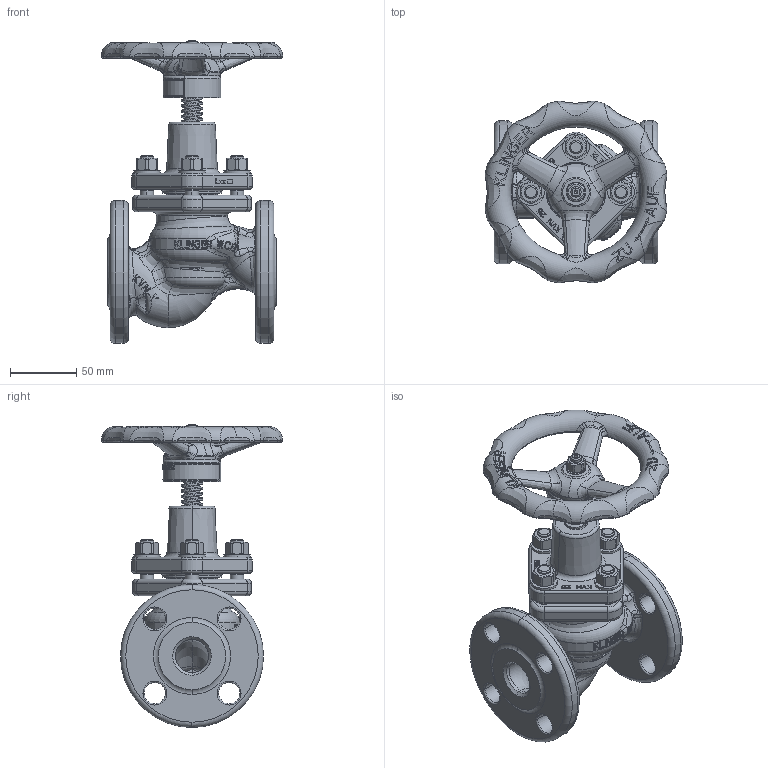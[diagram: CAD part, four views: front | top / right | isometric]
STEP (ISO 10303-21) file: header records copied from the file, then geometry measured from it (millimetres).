
FILE_DESCRIPTION((''),'2;1');
FILE_NAME('KVNFL-1-S-----C150PGG_SW0001','2020-11-25T10:25:25',('jeitlers'),('KLINGER'),'CREO PARAMETRIC BY PTC INC, 2018420','CREO PARAMETRIC BY PTC INC, 2018420','');
FILE_SCHEMA(('AUTOMOTIVE_DESIGN { 1 0 10303 214 1 1 1 1 }'));
Products named in the file (1): KVNFL-1-S-----C150PGG_SW0001
Bounding box: 137.21 x 137.21 x 228.8 mm (x, y, z)
Volume: 640103.9 mm3; surface area: 172856.3 mm2
Topology: 3 solids, 12 shells, 2823 faces, 7547 edges, 4786 vertices
Faces by surface type: plane 1504, bspline 587, cylinder 372, torus 247, cone 105, sphere 8
Entity records: 168737 total; most frequent: CARTESIAN_POINT 103922, ORIENTED_EDGE 15086, DIRECTION 10912, EDGE_CURVE 7543, VERTEX_POINT 4786, AXIS2_PLACEMENT_3D 3838, VECTOR 3233, LINE 3233
